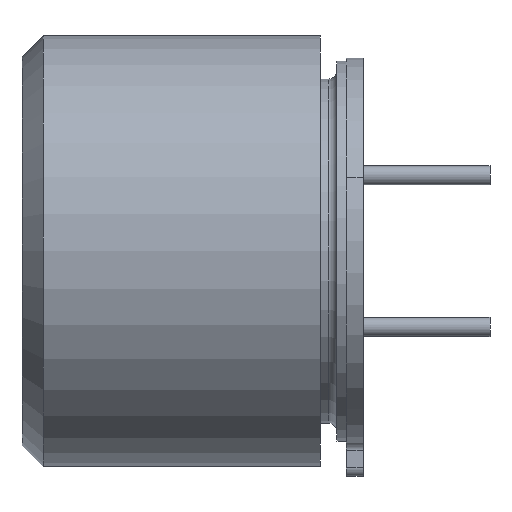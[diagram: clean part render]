
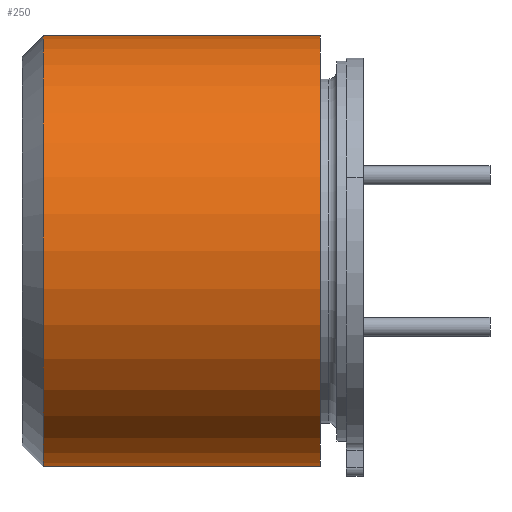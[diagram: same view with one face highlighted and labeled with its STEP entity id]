
A CAD part, left-side view. The second image highlights one B-rep face of the part: STEP entity #250.
In plain terms, the highlighted cylindrical face has radius 5.1 mm (diameter 10.2 mm), a partial arc.
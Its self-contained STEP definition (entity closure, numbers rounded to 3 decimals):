
#35=CARTESIAN_POINT('',(0.,6.57,0.));
#36=DIRECTION('',(0.,1.,0.));
#37=DIRECTION('',(0.,0.,-1.));
#38=AXIS2_PLACEMENT_3D('',#35,#36,#37);
#40=DIRECTION('',(0.,1.,0.));
#41=VECTOR('',#40,6.57);
#42=CARTESIAN_POINT('',(0.,0.,5.1));
#43=LINE('',#42,#41);
#44=DIRECTION('',(0.,1.,0.));
#45=VECTOR('',#44,6.57);
#46=CARTESIAN_POINT('',(0.,0.,-5.1));
#47=LINE('',#46,#45);
#53=CARTESIAN_POINT('',(0.,0.,0.));
#54=DIRECTION('',(0.,-1.,0.));
#55=DIRECTION('',(0.,0.,1.));
#56=AXIS2_PLACEMENT_3D('',#53,#54,#55);
#178=CARTESIAN_POINT('',(0.,6.57,-5.1));
#179=CARTESIAN_POINT('',(0.,6.57,5.1));
#180=VERTEX_POINT('',#178);
#181=VERTEX_POINT('',#179);
#186=CARTESIAN_POINT('',(0.,0.,5.1));
#187=VERTEX_POINT('',#186);
#188=CARTESIAN_POINT('',(0.,0.,-5.1));
#189=VERTEX_POINT('',#188);
#236=CARTESIAN_POINT('',(0.,-2.256,0.));
#237=DIRECTION('',(0.,-1.,0.));
#238=DIRECTION('',(0.,0.,-1.));
#239=AXIS2_PLACEMENT_3D('',#236,#237,#238);
#240=CYLINDRICAL_SURFACE('',#239,5.1);
#242=ORIENTED_EDGE('',*,*,#241,.F.);
#244=ORIENTED_EDGE('',*,*,#243,.T.);
#246=ORIENTED_EDGE('',*,*,#245,.T.);
#247=ORIENTED_EDGE('',*,*,#229,.T.);
#248=EDGE_LOOP('',(#242,#244,#246,#247));
#249=FACE_OUTER_BOUND('',#248,.F.);
#39=CIRCLE('',#38,5.1);
#57=CIRCLE('',#56,5.1);
#229=EDGE_CURVE('',#180,#181,#39,.T.);
#241=EDGE_CURVE('',#187,#181,#43,.T.);
#243=EDGE_CURVE('',#187,#189,#57,.T.);
#245=EDGE_CURVE('',#189,#180,#47,.T.);
#250=ADVANCED_FACE('',(#249),#240,.T.);
